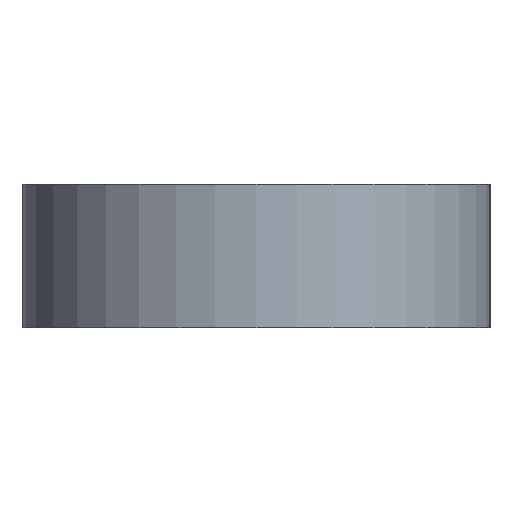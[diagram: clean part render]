
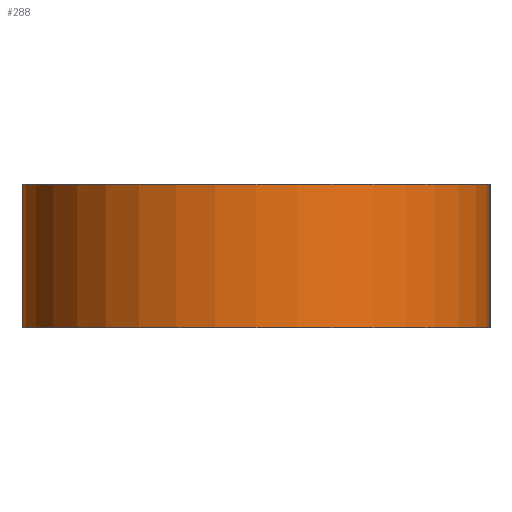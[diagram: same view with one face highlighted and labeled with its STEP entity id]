
A CAD part, left-side view. The second image highlights one B-rep face of the part: STEP entity #288.
In plain terms, the highlighted cylindrical face has radius 3.6 mm (diameter 7.2 mm), a partial arc.
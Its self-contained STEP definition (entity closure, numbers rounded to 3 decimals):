
#38=FACE_OUTER_BOUND('',#56,.T.);
#56=EDGE_LOOP('',(#230,#231,#232,#233));
#71=LINE('',#474,#91);
#75=LINE('',#485,#95);
#91=VECTOR('',#371,1.);
#95=VECTOR('',#381,1.);
#116=CIRCLE('',#332,3.6);
#117=CIRCLE('',#333,3.6);
#133=VERTEX_POINT('',#470);
#134=VERTEX_POINT('',#472);
#137=VERTEX_POINT('',#482);
#138=VERTEX_POINT('',#484);
#158=EDGE_CURVE('',#133,#134,#71,.T.);
#163=EDGE_CURVE('',#137,#138,#75,.T.);
#173=EDGE_CURVE('',#138,#134,#116,.T.);
#174=EDGE_CURVE('',#137,#133,#117,.T.);
#230=ORIENTED_EDGE('',*,*,#173,.F.);
#231=ORIENTED_EDGE('',*,*,#163,.F.);
#232=ORIENTED_EDGE('',*,*,#174,.T.);
#233=ORIENTED_EDGE('',*,*,#158,.T.);
#276=CYLINDRICAL_SURFACE('',#331,3.6);
#288=ADVANCED_FACE('',(#38),#276,.T.);
#331=AXIS2_PLACEMENT_3D('',#501,#406,#407);
#332=AXIS2_PLACEMENT_3D('',#502,#408,#409);
#333=AXIS2_PLACEMENT_3D('',#503,#410,#411);
#371=DIRECTION('',(0.,0.,1.));
#381=DIRECTION('',(0.,0.,1.));
#406=DIRECTION('center_axis',(0.,0.,1.));
#407=DIRECTION('ref_axis',(-1.,0.,0.));
#408=DIRECTION('center_axis',(0.,0.,1.));
#409=DIRECTION('ref_axis',(1.,0.,0.));
#410=DIRECTION('center_axis',(0.,0.,1.));
#411=DIRECTION('ref_axis',(1.,0.,0.));
#470=CARTESIAN_POINT('',(-9.1,14.4,-7.15));
#472=CARTESIAN_POINT('',(-9.1,14.4,-4.95));
#474=CARTESIAN_POINT('',(-9.1,14.4,-7.15));
#482=CARTESIAN_POINT('',(-9.1,21.6,-7.15));
#484=CARTESIAN_POINT('',(-9.1,21.6,-4.95));
#485=CARTESIAN_POINT('',(-9.1,21.6,-7.15));
#501=CARTESIAN_POINT('Origin',(-9.1,18.,-7.15));
#502=CARTESIAN_POINT('Origin',(-9.1,18.,-4.95));
#503=CARTESIAN_POINT('Origin',(-9.1,18.,-7.15));
